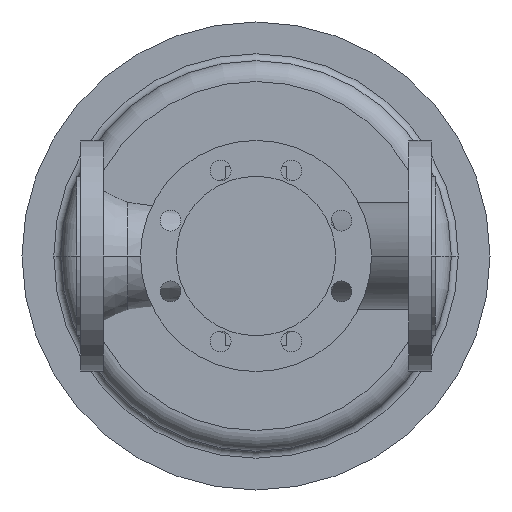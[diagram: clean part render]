
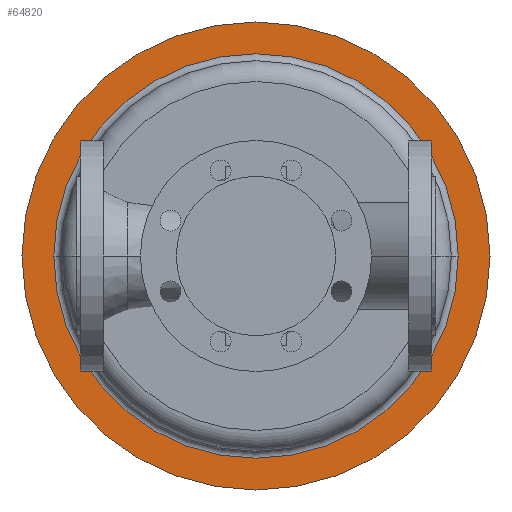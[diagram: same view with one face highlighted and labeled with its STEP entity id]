
A CAD part, front view. The second image highlights one B-rep face of the part: STEP entity #64820.
In plain terms, the highlighted planar face has unit normal (0, -1, 0).
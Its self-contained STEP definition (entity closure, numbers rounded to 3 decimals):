
#59210=CARTESIAN_POINT('',(-47.5,833.7,0.));
#59220=VERTEX_POINT('',#59210);
#59250=CARTESIAN_POINT('',(155.,833.7,0.));
#59260=DIRECTION('',(0.,1.,0.));
#59270=DIRECTION('',(1.,0.,0.));
#59280=AXIS2_PLACEMENT_3D('',#59250,#59260,#59270);
#59290=CIRCLE('',#59280,202.5);
#59300=CARTESIAN_POINT('',(357.5,833.7,0.));
#59310=VERTEX_POINT('',#59300);
#59320=EDGE_CURVE('',#59310,#59220,#59290,.T.);
#59640=CARTESIAN_POINT('',(330.,833.7,0.));
#59650=VERTEX_POINT('',#59640);
#59680=CARTESIAN_POINT('',(155.,833.7,0.));
#59690=DIRECTION('',(0.,1.,0.));
#59700=DIRECTION('',(1.,0.,0.));
#59710=AXIS2_PLACEMENT_3D('',#59680,#59690,#59700);
#59720=CIRCLE('',#59710,175.);
#59730=CARTESIAN_POINT('',(155.,833.7,-175.));
#59740=VERTEX_POINT('',#59730);
#59750=EDGE_CURVE('',#59650,#59740,#59720,.T.);
#59770=CARTESIAN_POINT('',(-20.,833.7,0.));
#59780=VERTEX_POINT('',#59770);
#59790=EDGE_CURVE('',#59740,#59780,#59720,.T.);
#64660=CARTESIAN_POINT('',(343.75,833.7,0.));
#64670=DIRECTION('',(0.,-1.,0.));
#64680=DIRECTION('',(-1.,0.,0.));
#64690=AXIS2_PLACEMENT_3D('',#64660,#64670,#64680);
#64700=PLANE('',#64690);
#64710=ORIENTED_EDGE('',*,*,#59320,.F.);
#64720=EDGE_CURVE('',#59220,#59310,#59290,.T.);
#64730=ORIENTED_EDGE('',*,*,#64720,.F.);
#64740=EDGE_LOOP('',(#64730,#64710));
#64750=FACE_OUTER_BOUND('',#64740,.T.);
#64760=EDGE_CURVE('',#59780,#59650,#59720,.T.);
#64770=ORIENTED_EDGE('',*,*,#64760,.T.);
#64780=ORIENTED_EDGE('',*,*,#59790,.T.);
#64790=ORIENTED_EDGE('',*,*,#59750,.T.);
#64800=EDGE_LOOP('',(#64790,#64780,#64770));
#64810=FACE_BOUND('',#64800,.T.);
#64820=ADVANCED_FACE('',(#64750,#64810),#64700,.T.);
